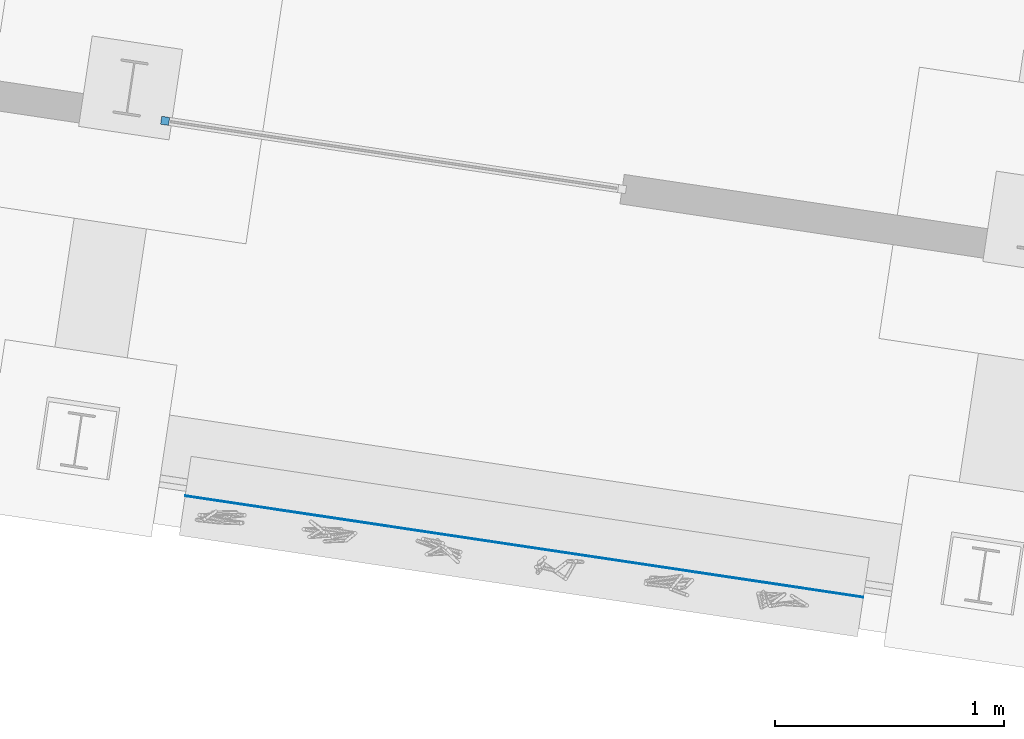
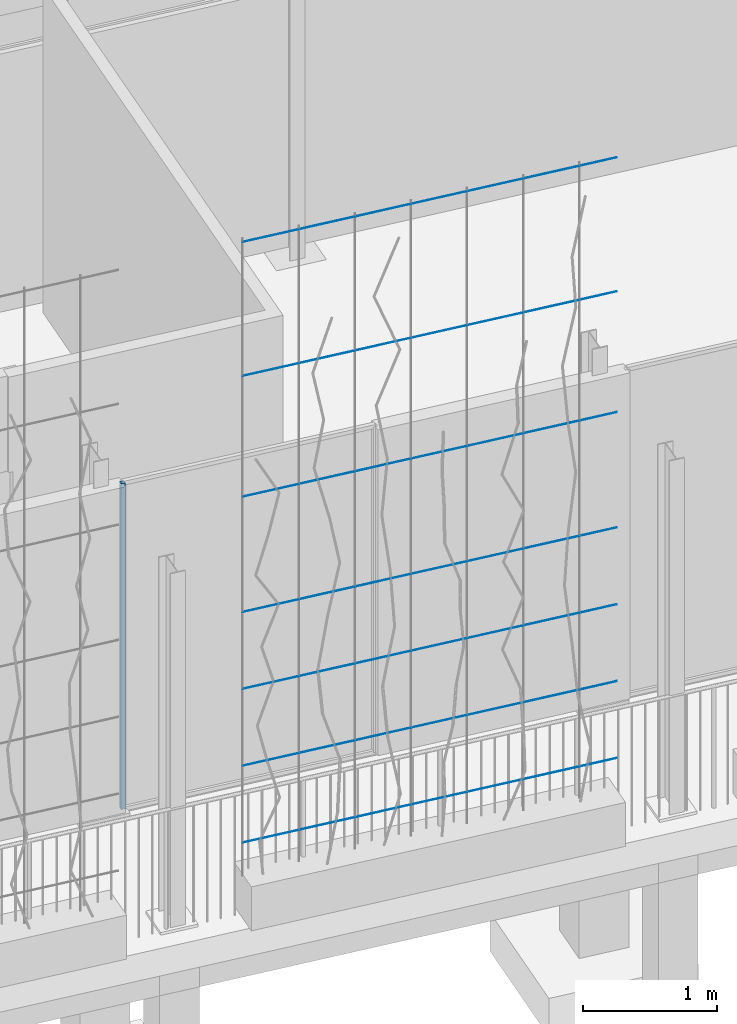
# One storey, part 79 of 143: 8 members, 1 element without a shape of its own.
"""IFC4 building model written with IfcOpenShell, lengths in metres."""

from ifc_helpers import new_model, si_unit, direction, frame, origin_with_axes, place, context, subcontext, project, spatial, rectangle, circle, extrude, material, material_profile, profile_set, profile_usage, type_object, element, aggregate, save


model = new_model("IFC4")

# Units and contexts
model_context = context("Model", 3, precision=1e-05, world=origin_with_axes(), true_north=direction((0.0, 1.0)))
body_context = subcontext(model_context, "Body", "Model", "MODEL_VIEW")
ifc_project = project(units=[si_unit("VOLUMEUNIT", "CUBIC_METRE"), si_unit("LENGTHUNIT", "METRE"), si_unit("AREAUNIT", "SQUARE_METRE")], contexts=[model_context])

# Site, building, storey
site_placement = place(None, origin_with_axes())
site = spatial("IfcSite", under=ifc_project, at=site_placement, Name="Lares · Rua das Mercês · artigo 4771")
building_placement = place(site_placement, frame((15.0, 9.7, 15.8), z_axis=(0.0, 0.0, 1.0), x_axis=(0.989015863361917, -0.147809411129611, 0.0)))
building = spatial("IfcBuilding", under=site, at=building_placement, Name="Casa Sobreposta")
storey_placement = place(building_placement, origin_with_axes())
storey = spatial("IfcBuildingStorey", under=building, at=storey_placement, Name="00 · Habitação e estacionamento", Elevation=15.8)

# Member
ifc_material_1 = material(Name="Aço pintado / Stahl lackiert", Category="steel")
ifc_material_profile_1 = material_profile(ifc_material_1, rectangle(XDim=0.035, YDim=0.035))
ifc_profile_set_1 = profile_set([ifc_material_profile_1], Name="R0.035")
ifc_profile_usage_1 = profile_usage(ifc_profile_set_1)
member_type_1 = type_object("IfcMemberType", Name="R0.035 / steel", PredefinedType="NOTDEFINED", material=ifc_profile_set_1)
member_1_placement = place(storey_placement, frame((16.1706666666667, 0.0, 0.0), z_axis=(0.0, 0.0, 1.0), x_axis=(1.0, 0.0, 0.0)))
element("IfcMember", 1, at=member_1_placement, inside=storey, type_object=member_type_1, material=ifc_profile_usage_1, Name="Folha de correr sul 8 · montante", context=body_context, shape_type="SweptSolid", body=[
    extrude(rectangle(XDim=0.035, YDim=0.035), origin_with_axes(), (0.0, 0.0, 1.0), 2.968),
])

# Assembly, members
assembly_placement = place(storey_placement, origin_with_axes())
assembly = element("IfcElementAssembly", 2, at=assembly_placement, inside=storey, Name="Fachada sul e pátio · estrutura e trepadeiras", ObjectType="LIVING_SHADE_TRELLIS", PredefinedType="USERDEFINED")
ifc_material_2 = material(Name="Aço galvanizado / Stahl verzinkt", Category="steel")
ifc_material_profile_2 = material_profile(ifc_material_2, circle(Radius=0.002))
ifc_profile_set_2 = profile_set([ifc_material_profile_2], Name="D0.004")
ifc_profile_usage_2 = profile_usage(ifc_profile_set_2)
member_type_2 = type_object("IfcMemberType", Name="D0.004 / galvanized", PredefinedType="NOTDEFINED", material=ifc_profile_set_2)
member_2_placement = place(assembly_placement, frame((16.5, -1.61, 0.65), z_axis=(1.0, 0.0, 0.0), x_axis=(0.0, -1.0, 0.0)))
member_2 = element("IfcMember", 3, at=member_2_placement, type_object=member_type_2, material=ifc_profile_usage_2, Name="Trepadeiras · fio horizontal", context=body_context, shape_type="SweptSolid", body=[
    extrude(circle(Radius=0.002), origin_with_axes(), (0.0, 0.0, 1.0), 3.0),
])
ifc_profile_usage_3 = profile_usage(ifc_profile_set_2)
member_3_placement = place(assembly_placement, frame((16.5, -1.61, 1.35), z_axis=(1.0, 0.0, 0.0), x_axis=(0.0, -1.0, 0.0)))
member_3 = element("IfcMember", 4, at=member_3_placement, type_object=member_type_2, material=ifc_profile_usage_3, Name="Trepadeiras · fio horizontal", context=body_context, shape_type="SweptSolid", body=[
    extrude(circle(Radius=0.002), origin_with_axes(), (0.0, 0.0, 1.0), 3.0),
])
ifc_profile_usage_4 = profile_usage(ifc_profile_set_2)
member_4_placement = place(assembly_placement, frame((16.5, -1.61, 2.05), z_axis=(1.0, 0.0, 0.0), x_axis=(0.0, -1.0, 0.0)))
member_4 = element("IfcMember", 5, at=member_4_placement, type_object=member_type_2, material=ifc_profile_usage_4, Name="Trepadeiras · fio horizontal", context=body_context, shape_type="SweptSolid", body=[
    extrude(circle(Radius=0.002), origin_with_axes(), (0.0, 0.0, 1.0), 3.0),
])
ifc_profile_usage_5 = profile_usage(ifc_profile_set_2)
member_5_placement = place(assembly_placement, frame((16.5, -1.61, 2.75), z_axis=(1.0, 0.0, 0.0), x_axis=(0.0, -1.0, 0.0)))
member_5 = element("IfcMember", 6, at=member_5_placement, type_object=member_type_2, material=ifc_profile_usage_5, Name="Trepadeiras · fio horizontal", context=body_context, shape_type="SweptSolid", body=[
    extrude(circle(Radius=0.002), origin_with_axes(), (0.0, 0.0, 1.0), 3.0),
])
ifc_profile_usage_6 = profile_usage(ifc_profile_set_2)
member_6_placement = place(assembly_placement, frame((16.5, -1.61, 3.8), z_axis=(1.0, 0.0, 0.0), x_axis=(0.0, -1.0, 0.0)))
member_6 = element("IfcMember", 7, at=member_6_placement, type_object=member_type_2, material=ifc_profile_usage_6, Name="Trepadeiras · fio horizontal", context=body_context, shape_type="SweptSolid", body=[
    extrude(circle(Radius=0.002), origin_with_axes(), (0.0, 0.0, 1.0), 3.0),
])
ifc_profile_usage_7 = profile_usage(ifc_profile_set_2)
member_7_placement = place(assembly_placement, frame((16.5, -1.61, 4.9), z_axis=(1.0, 0.0, 0.0), x_axis=(0.0, -1.0, 0.0)))
member_7 = element("IfcMember", 8, at=member_7_placement, type_object=member_type_2, material=ifc_profile_usage_7, Name="Trepadeiras · fio horizontal", context=body_context, shape_type="SweptSolid", body=[
    extrude(circle(Radius=0.002), origin_with_axes(), (0.0, 0.0, 1.0), 3.0),
])
ifc_profile_usage_8 = profile_usage(ifc_profile_set_2)
member_8_placement = place(assembly_placement, frame((16.5, -1.61, 6.12), z_axis=(1.0, 0.0, 0.0), x_axis=(0.0, -1.0, 0.0)))
member_8 = element("IfcMember", 9, at=member_8_placement, type_object=member_type_2, material=ifc_profile_usage_8, Name="Trepadeiras · fio horizontal", context=body_context, shape_type="SweptSolid", body=[
    extrude(circle(Radius=0.002), origin_with_axes(), (0.0, 0.0, 1.0), 3.0),
])
aggregate(assembly, [member_2, member_3, member_4, member_5, member_6, member_7, member_8])

save(model, "model.ifc")
